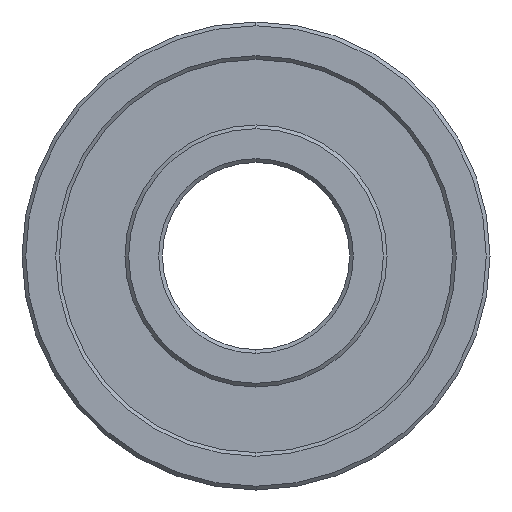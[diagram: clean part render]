
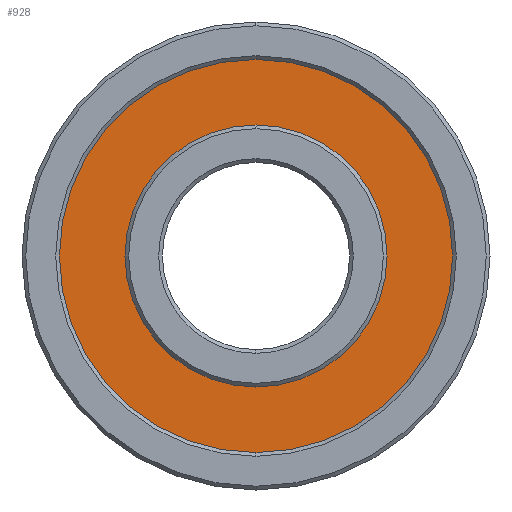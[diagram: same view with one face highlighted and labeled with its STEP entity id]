
A CAD part, left-side view. The second image highlights one B-rep face of the part: STEP entity #928.
In plain terms, the highlighted planar face has unit normal (-1, 0, 0).
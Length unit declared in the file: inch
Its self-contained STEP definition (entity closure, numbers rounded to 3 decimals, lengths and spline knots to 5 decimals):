
#75 = CARTESIAN_POINT ( 'NONE',  ( 0.015, 0., 0. ) ) ;
#78 = DIRECTION ( 'NONE',  ( -1., 0., 0. ) ) ;
#79 = DIRECTION ( 'NONE',  ( 0., 0., 1. ) ) ;
#96 = DIRECTION ( 'NONE',  ( 0., 0., 1. ) ) ;
#102 = CARTESIAN_POINT ( 'NONE',  ( 0.015, 0., 0. ) ) ;
#103 = DIRECTION ( 'NONE',  ( -1., 0., 0. ) ) ;
#128 = CARTESIAN_POINT ( 'NONE',  ( 0.015, 0., 0. ) ) ;
#136 = DIRECTION ( 'NONE',  ( 0., 0., 1. ) ) ;
#162 = DIRECTION ( 'NONE',  ( -1., 0., 0. ) ) ;
#218 = DIRECTION ( 'NONE',  ( 0., 0., -1. ) ) ;
#219 = CARTESIAN_POINT ( 'NONE',  ( 0.015, 0., -0.2625 ) ) ;
#240 = DIRECTION ( 'NONE',  ( 1., 0., 0. ) ) ;
#251 = PLANE ( 'NONE',  #881 ) ;
#286 = CARTESIAN_POINT ( 'NONE',  ( 0.015, 0., 0.175 ) ) ;
#291 = CARTESIAN_POINT ( 'NONE',  ( 0.015, 0., -0.2625 ) ) ;
#292 = CARTESIAN_POINT ( 'NONE',  ( 0.015, 0., 0.2625 ) ) ;
#294 = CARTESIAN_POINT ( 'NONE',  ( 0.015, 0., -0.175 ) ) ;
#297 = DIRECTION ( 'NONE',  ( 0., 0., 1. ) ) ;
#310 = CARTESIAN_POINT ( 'NONE',  ( 0.015, 0., 0. ) ) ;
#321 = DIRECTION ( 'NONE',  ( -1., 0., 0. ) ) ;
#372 = EDGE_LOOP ( 'NONE', ( #552, #530 ) ) ;
#382 = EDGE_LOOP ( 'NONE', ( #556, #555 ) ) ;
#394 = VERTEX_POINT ( 'NONE', #286 ) ;
#401 = VERTEX_POINT ( 'NONE', #292 ) ;
#410 = VERTEX_POINT ( 'NONE', #294 ) ;
#411 = VERTEX_POINT ( 'NONE', #291 ) ;
#530 = ORIENTED_EDGE ( 'NONE', *, *, #750, .T. ) ;
#552 = ORIENTED_EDGE ( 'NONE', *, *, #849, .T. ) ;
#555 = ORIENTED_EDGE ( 'NONE', *, *, #820, .F. ) ;
#556 = ORIENTED_EDGE ( 'NONE', *, *, #786, .F. ) ;
#560 = CIRCLE ( 'NONE', #814, 0.2625 ) ;
#634 = CIRCLE ( 'NONE', #799, 0.175 ) ;
#655 = CIRCLE ( 'NONE', #880, 0.2625 ) ;
#660 = CIRCLE ( 'NONE', #822, 0.175 ) ;
#711 = FACE_BOUND ( 'NONE', #382, .T. ) ;
#714 = FACE_OUTER_BOUND ( 'NONE', #372, .T. ) ;
#750 = EDGE_CURVE ( 'NONE', #411, #401, #560, .T. ) ;
#786 = EDGE_CURVE ( 'NONE', #394, #410, #660, .T. ) ;
#799 = AXIS2_PLACEMENT_3D ( 'NONE', #102, #103, #96 ) ;
#814 = AXIS2_PLACEMENT_3D ( 'NONE', #310, #321, #297 ) ;
#820 = EDGE_CURVE ( 'NONE', #410, #394, #634, .T. ) ;
#822 = AXIS2_PLACEMENT_3D ( 'NONE', #75, #78, #79 ) ;
#849 = EDGE_CURVE ( 'NONE', #401, #411, #655, .T. ) ;
#880 = AXIS2_PLACEMENT_3D ( 'NONE', #128, #162, #136 ) ;
#881 = AXIS2_PLACEMENT_3D ( 'NONE', #219, #240, #218 ) ;
#928 = ADVANCED_FACE ( 'NONE', ( #711, #714 ), #251, .F. ) ;
